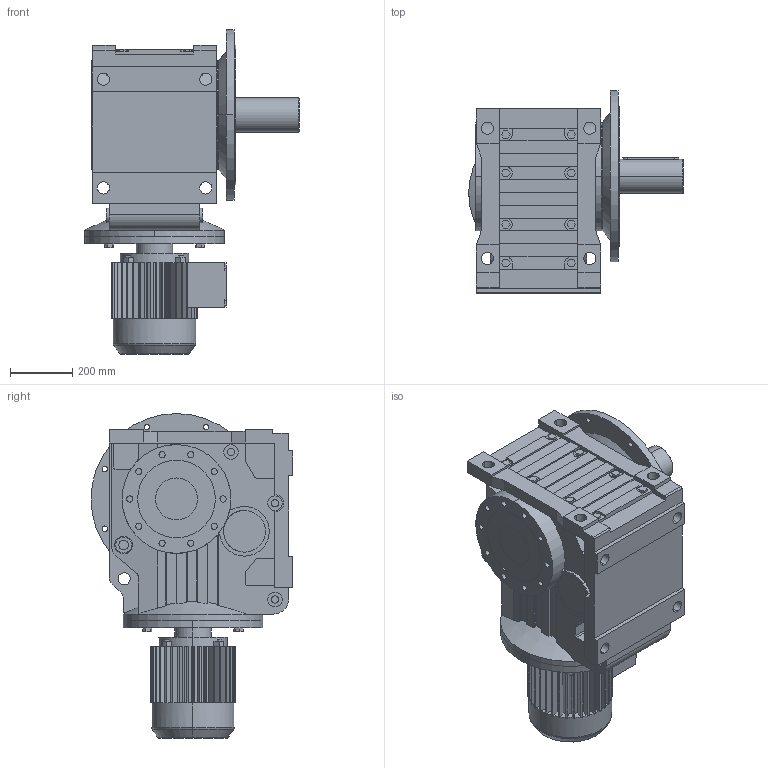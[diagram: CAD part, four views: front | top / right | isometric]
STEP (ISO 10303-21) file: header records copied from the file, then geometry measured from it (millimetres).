
FILE_DESCRIPTION(('Open CASCADE Model'),'2;1');
FILE_NAME('Open CASCADE Shape Model','2021-07-20T14:41:13',('Author'),( 'Open CASCADE'),'Open CASCADE STEP processor 6.3','Open CASCADE 6.3' ,'Unknown');
FILE_SCHEMA(('AUTOMOTIVE_DESIGN_CC2 { 1 2 10303 214 -1 1 5 4 }'));
Length unit declared in the file: millimetre
Products named in the file (5): 1_KF127DV132M-A; KA127‵157_127.step; 萇儂_450-DV132M-381-493-275-230.step; す瑩妗陑粣K_127.step; 楊擘K_127.step
Assembly tree (4 placements, depth 2):
  1_KF127DV132M-A
    KA127‵157_127.step
    萇儂_450-DV132M-381-493-275-230.step
    す瑩妗陑粣K_127.step
    楊擘K_127.step
Bounding box: 691 x 650 x 1046 mm (x, y, z)
Volume: 138238719.5 mm3; surface area: 4029816.2 mm2
Topology: 4 solids, 4 shells, 945 faces, 2464 edges, 1604 vertices
Faces by surface type: plane 600, cylinder 327, cone 14, torus 4
Entity records: 68401 total; most frequent: CARTESIAN_POINT 21965, DIRECTION 7865, ORIENTED_EDGE 4924, PCURVE 4924, DEFINITIONAL_REPRESENTATION 4924, LINE 4021, VECTOR 4021, EDGE_CURVE 2462
